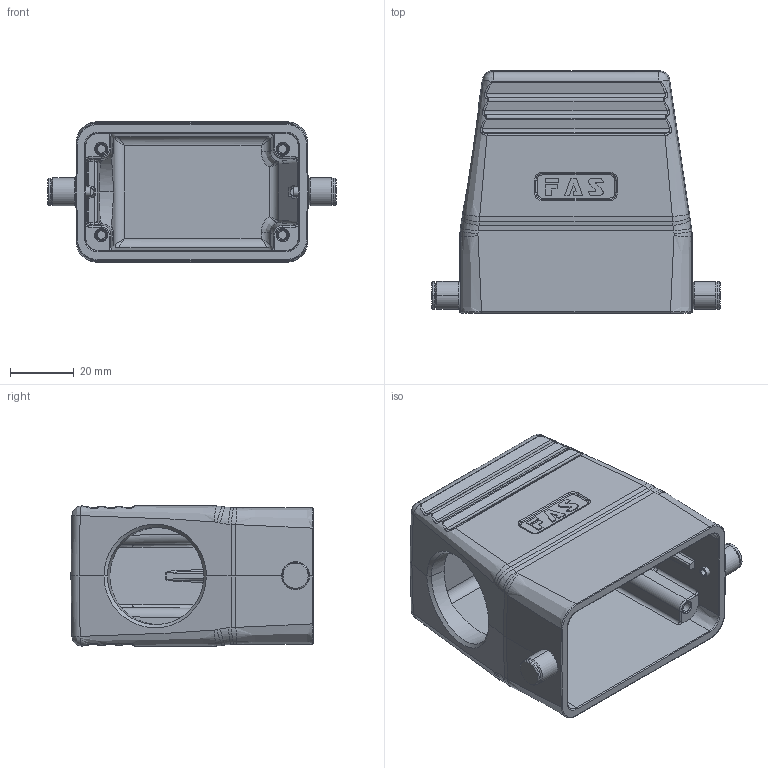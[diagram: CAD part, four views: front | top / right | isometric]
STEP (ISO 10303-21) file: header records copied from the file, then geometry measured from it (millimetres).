
FILE_DESCRIPTION (( 'STEP AP203' ), '1' );
FILE_NAME ('H10B-TSH-RO-M25&32.STEP', '2020-11-21T05:10:33', ( '' ), ( '' ), 'SwSTEP 2.0', 'SolidWorks 2016', '' );
FILE_SCHEMA (( 'CONFIG_CONTROL_DESIGN' ));
Length unit declared in the file: millimetre
Products named in the file (1): H10B-TSH-RO-M25&32
Bounding box: 90.57 x 76 x 44 mm (x, y, z)
Volume: 73178.4 mm3; surface area: 35181.8 mm2
Topology: 5 solids, 5 shells, 534 faces, 1276 edges, 769 vertices
Faces by surface type: cylinder 171, bspline 166, plane 149, cone 48
Entity records: 24571 total; most frequent: CARTESIAN_POINT 13576, ORIENTED_EDGE 2540, DIRECTION 1924, EDGE_CURVE 1270, VERTEX_POINT 769, AXIS2_PLACEMENT_3D 702, EDGE_LOOP 563, ADVANCED_FACE 534
